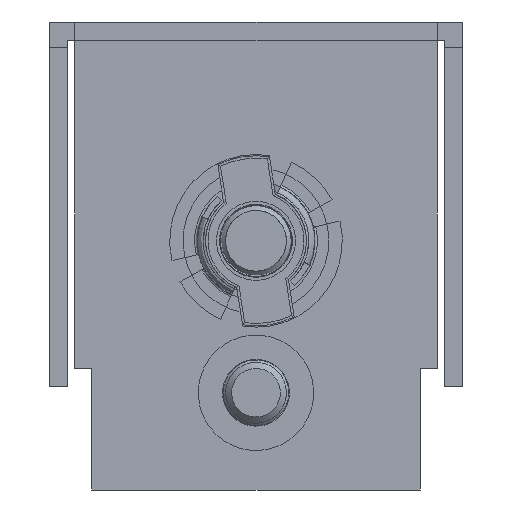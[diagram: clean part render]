
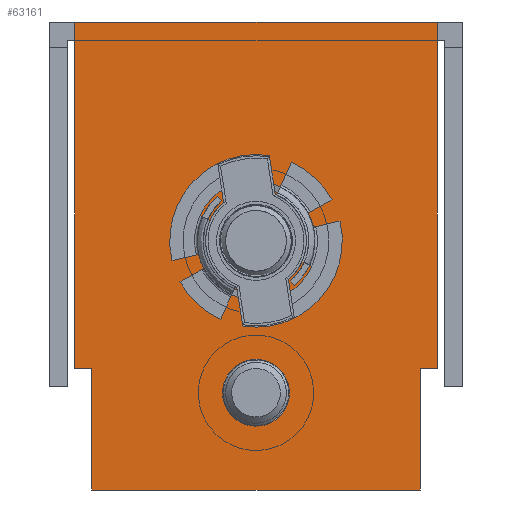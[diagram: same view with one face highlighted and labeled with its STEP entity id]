
A CAD part, left-side view. The second image highlights one B-rep face of the part: STEP entity #63161.
In plain terms, the highlighted planar face has unit normal (-1, 0, 0).
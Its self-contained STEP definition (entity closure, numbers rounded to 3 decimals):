
#5362 = VERTEX_POINT('',#5363);
#5363 = CARTESIAN_POINT('',(-449.,-14.9,1.5));
#5442 = VERTEX_POINT('',#5443);
#5443 = CARTESIAN_POINT('',(-449.,14.9,1.5));
#5449 = EDGE_CURVE('',#5442,#5362,#5450,.T.);
#5450 = LINE('',#5451,#5452);
#5451 = CARTESIAN_POINT('',(-449.,0.,1.5));
#5452 = VECTOR('',#5453,1.);
#5453 = DIRECTION('',(0.,-1.,0.));
#63049 = VERTEX_POINT('',#63050);
#63050 = CARTESIAN_POINT('',(-449.,14.9,-0.6));
#63056 = EDGE_CURVE('',#63049,#5442,#63057,.T.);
#63057 = LINE('',#63058,#63059);
#63058 = CARTESIAN_POINT('',(-449.,14.9,0.));
#63059 = VECTOR('',#63060,1.);
#63060 = DIRECTION('',(0.,0.,1.));
#63074 = VERTEX_POINT('',#63075);
#63075 = CARTESIAN_POINT('',(-449.,-14.9,-0.6));
#63089 = EDGE_CURVE('',#63074,#5362,#63090,.T.);
#63090 = LINE('',#63091,#63092);
#63091 = CARTESIAN_POINT('',(-449.,-14.9,-0.6));
#63092 = VECTOR('',#63093,1.);
#63093 = DIRECTION('',(0.,0.,1.));
#63112 = VERTEX_POINT('',#63113);
#63113 = CARTESIAN_POINT('',(-449.,14.9,-27.));
#63119 = EDGE_CURVE('',#63049,#63112,#63120,.T.);
#63120 = LINE('',#63121,#63122);
#63121 = CARTESIAN_POINT('',(-449.,14.9,-37.));
#63122 = VECTOR('',#63123,1.);
#63123 = DIRECTION('',(0.,0.,-1.));
#63134 = EDGE_CURVE('',#63135,#63074,#63137,.T.);
#63135 = VERTEX_POINT('',#63136);
#63136 = CARTESIAN_POINT('',(-449.,-14.9,-27.));
#63137 = LINE('',#63138,#63139);
#63138 = CARTESIAN_POINT('',(-449.,-14.9,0.));
#63139 = VECTOR('',#63140,1.);
#63140 = DIRECTION('',(0.,0.,1.));
#63161 = ADVANCED_FACE('',(#63162,#63173,#63184),#63229,.F.);
#63162 = FACE_BOUND('',#63163,.T.);
#63163 = EDGE_LOOP('',(#63164));
#63164 = ORIENTED_EDGE('',*,*,#63165,.T.);
#63165 = EDGE_CURVE('',#63166,#63166,#63168,.T.);
#63166 = VERTEX_POINT('',#63167);
#63167 = CARTESIAN_POINT('',(-449.,0.,-19.75));
#63168 = CIRCLE('',#63169,3.25);
#63169 = AXIS2_PLACEMENT_3D('',#63170,#63171,#63172);
#63170 = CARTESIAN_POINT('',(-449.,0.,-16.5));
#63171 = DIRECTION('',(1.,0.,0.));
#63172 = DIRECTION('',(0.,0.,-1.));
#63173 = FACE_BOUND('',#63174,.T.);
#63174 = EDGE_LOOP('',(#63175));
#63175 = ORIENTED_EDGE('',*,*,#63176,.T.);
#63176 = EDGE_CURVE('',#63177,#63177,#63179,.T.);
#63177 = VERTEX_POINT('',#63178);
#63178 = CARTESIAN_POINT('',(-449.,0.,-31.75));
#63179 = CIRCLE('',#63180,2.75);
#63180 = AXIS2_PLACEMENT_3D('',#63181,#63182,#63183);
#63181 = CARTESIAN_POINT('',(-449.,0.,-29.));
#63182 = DIRECTION('',(1.,0.,0.));
#63183 = DIRECTION('',(0.,0.,-1.));
#63184 = FACE_BOUND('',#63185,.T.);
#63185 = EDGE_LOOP('',(#63186,#63196,#63202,#63203,#63204,#63205,#63206,
    #63207,#63215,#63223));
#63186 = ORIENTED_EDGE('',*,*,#63187,.T.);
#63187 = EDGE_CURVE('',#63188,#63190,#63192,.T.);
#63188 = VERTEX_POINT('',#63189);
#63189 = CARTESIAN_POINT('',(-449.,-13.5,-37.));
#63190 = VERTEX_POINT('',#63191);
#63191 = CARTESIAN_POINT('',(-449.,-13.5,-27.));
#63192 = LINE('',#63193,#63194);
#63193 = CARTESIAN_POINT('',(-449.,-13.5,-37.));
#63194 = VECTOR('',#63195,1.);
#63195 = DIRECTION('',(0.,0.,1.));
#63196 = ORIENTED_EDGE('',*,*,#63197,.T.);
#63197 = EDGE_CURVE('',#63190,#63135,#63198,.T.);
#63198 = LINE('',#63199,#63200);
#63199 = CARTESIAN_POINT('',(-449.,-14.9,-27.));
#63200 = VECTOR('',#63201,1.);
#63201 = DIRECTION('',(-0.,-1.,0.));
#63202 = ORIENTED_EDGE('',*,*,#63134,.T.);
#63203 = ORIENTED_EDGE('',*,*,#63089,.T.);
#63204 = ORIENTED_EDGE('',*,*,#5449,.F.);
#63205 = ORIENTED_EDGE('',*,*,#63056,.F.);
#63206 = ORIENTED_EDGE('',*,*,#63119,.T.);
#63207 = ORIENTED_EDGE('',*,*,#63208,.T.);
#63208 = EDGE_CURVE('',#63112,#63209,#63211,.T.);
#63209 = VERTEX_POINT('',#63210);
#63210 = CARTESIAN_POINT('',(-449.,13.5,-27.));
#63211 = LINE('',#63212,#63213);
#63212 = CARTESIAN_POINT('',(-449.,14.9,-27.));
#63213 = VECTOR('',#63214,1.);
#63214 = DIRECTION('',(0.,-1.,0.));
#63215 = ORIENTED_EDGE('',*,*,#63216,.T.);
#63216 = EDGE_CURVE('',#63209,#63217,#63219,.T.);
#63217 = VERTEX_POINT('',#63218);
#63218 = CARTESIAN_POINT('',(-449.,13.5,-37.));
#63219 = LINE('',#63220,#63221);
#63220 = CARTESIAN_POINT('',(-449.,13.5,-37.));
#63221 = VECTOR('',#63222,1.);
#63222 = DIRECTION('',(0.,0.,-1.));
#63223 = ORIENTED_EDGE('',*,*,#63224,.T.);
#63224 = EDGE_CURVE('',#63217,#63188,#63225,.T.);
#63225 = LINE('',#63226,#63227);
#63226 = CARTESIAN_POINT('',(-449.,-14.9,-37.));
#63227 = VECTOR('',#63228,1.);
#63228 = DIRECTION('',(0.,-1.,0.));
#63229 = PLANE('',#63230);
#63230 = AXIS2_PLACEMENT_3D('',#63231,#63232,#63233);
#63231 = CARTESIAN_POINT('',(-449.,0.,
    0.));
#63232 = DIRECTION('',(1.,0.,0.));
#63233 = DIRECTION('',(0.,0.,-1.));
